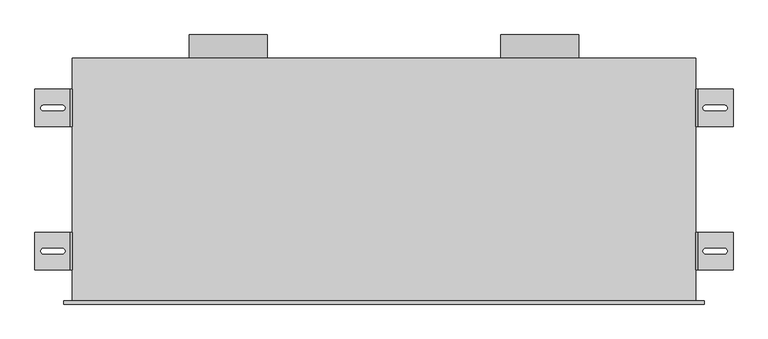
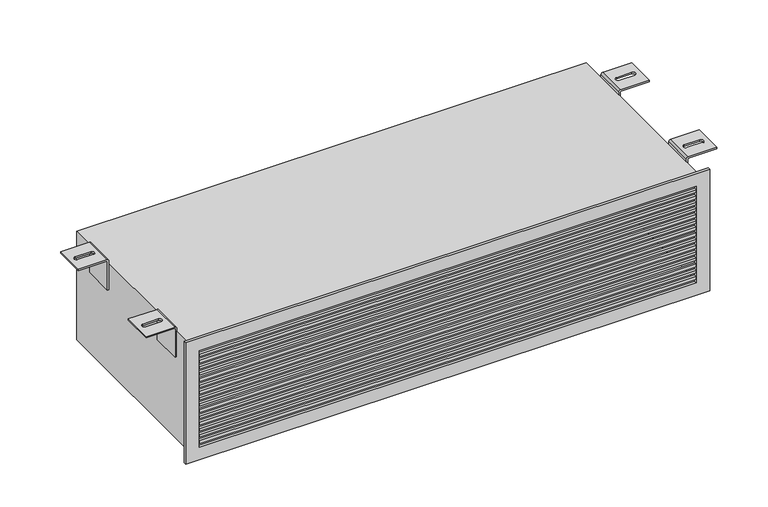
"""IFC4 building model written with IfcOpenShell, lengths in millimetres: air terminal geometry, EOL - Mural - 2 piquages : EOL-M2x125-1000x225-2."""

from ifc_helpers import new_model, si_unit, point, frame, frame_2d, origin, place, context, project, spatial, polyline, circle_curve, ellipse_curve, trimmed, segment, composite_curve, outline, extrude, source, transform, mapped, element, save
from ifc_brep_helpers import plane_surface, cylinder_surface, revolved_surface, extruded_surface, advanced_brep


def air_terminal_dd134d97(model_context):
    return source(origin(), model_context, "Body", "SolidModel", [
        advanced_brep(
        [(504.0013366, 110.0, 121.5), (560.0, 110.0, 121.5), (560.0, 110.0, 118.5), (504.0, 110.0, 118.5), (503.0, 110.0, 117.5), (503.0, 110.0, 58.5), (500.0, 110.0, 58.5), (500.0, 110.0, 117.4986634), (504.0013366, 50.0, 121.5), (500.0, 50.0, 117.4986634), (500.0, 50.0, 58.5), (503.0, 50.0, 58.5), (503.0, 50.0, 117.5), (504.0, 50.0, 118.5), (560.0, 50.0, 118.5), (560.0, 50.0, 121.5), (546.0287952, 75.4804328, 121.5), (516.0287952, 75.4804328, 121.5), (516.0287952, 84.4804328, 121.5), (546.0287952, 84.4804328, 121.5), (516.0287952, 75.4804328, 118.5), (546.0287952, 75.4804328, 118.5), (546.0287952, 84.4804328, 118.5), (516.0287952, 84.4804328, 118.5)],
        [
            (0, 1),
            (1, 2),
            (2, 3),
            (3, 4, circle_curve(frame((504.0, 110.0, 117.5), z_axis=(0.0, -1.0, 0.0), x_axis=(-1.0000000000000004, 0.0, 0.0)), 1.0)),
            (4, 5),
            (5, 6),
            (6, 7),
            (7, 0, circle_curve(frame((504.0013366, 110.0, 117.4986634), z_axis=(0.0, 1.0, 0.0), x_axis=(-1.0000000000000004, 0.0, 0.0)), 4.0013366)),
            (8, 9, circle_curve(frame((504.0013366, 50.0, 117.4986634), z_axis=(0.0, -1.0, 0.0), x_axis=(-1.0000000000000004, 0.0, 0.0)), 4.0013366)),
            (9, 10),
            (10, 11),
            (11, 12),
            (12, 13, circle_curve(frame((504.0, 50.0, 117.5), z_axis=(0.0, 1.0, 0.0), x_axis=(-1.0000000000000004, 0.0, 0.0)), 1.0)),
            (13, 14),
            (14, 15),
            (15, 8),
            (0, 8),
            (15, 1),
            (16, 17),
            (17, 18, circle_curve(frame((516.0287952, 79.9804328, 121.5), z_axis=(0.0, 0.0, -1.0), x_axis=(0.0, -1.0, 0.0)), 4.5)),
            (18, 19),
            (19, 16, circle_curve(frame((546.0287952, 79.9804328, 121.5), z_axis=(0.0, 0.0, -1.0), x_axis=(0.0, -1.0, 0.0)), 4.5)),
            (14, 2),
            (13, 3),
            (20, 21),
            (21, 22, ellipse_curve(frame((546.0287952, 79.9804328, 118.5), z_axis=(0.0, 0.0, 1.0), x_axis=(0.0, -1.0, 0.0)), 4.5, 4.5)),
            (22, 23),
            (23, 20, ellipse_curve(frame((516.0287952, 79.9804328, 118.5), z_axis=(0.0, 0.0, 1.0), x_axis=(0.0, -1.0, 0.0)), 4.5, 4.5)),
            (12, 4),
            (11, 5),
            (10, 6),
            (9, 7),
            (16, 21),
            (20, 17),
            (19, 22),
            (18, 23),
        ],
        [
            plane_surface(frame((560.0, 110.0, 121.5), z_axis=(0.0, 1.0, 0.0), x_axis=(1.0, 0.0, 0.0))),
            plane_surface(frame((560.0, 50.0, 121.5), z_axis=(0.0, -1.0, 0.0), x_axis=(-1.0, 0.0, 0.0))),
            plane_surface(frame((504.0013366, 110.0, 121.5), z_axis=(0.0, 0.0, 1.0), x_axis=(0.0, -1.0, 0.0))),
            plane_surface(frame((560.0, 110.0, 121.5), z_axis=(1.0, 0.0, 0.0), x_axis=(0.0, -1.0, 0.0))),
            plane_surface(frame((560.0, 110.0, 118.5), z_axis=(0.0, 0.0, -1.0), x_axis=(0.0, -1.0, 0.0))),
            revolved_surface(polyline([(503.0, 50.0, 117.5), (503.0, 110.00000000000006, 117.5)]), (504.0, 50.0, 117.5), (0.0, -1.0000000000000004, 0.0)),
            plane_surface(frame((503.0, 110.0, 117.5), z_axis=(1.0, 0.0, 0.0), x_axis=(0.0, -1.0, 0.0))),
            plane_surface(frame((503.0, 110.0, 58.5), z_axis=(0.0, 0.0, -1.0), x_axis=(0.0, -1.0, 0.0))),
            plane_surface(frame((500.0, 110.0, 58.5), z_axis=(-1.0, 0.0, 0.0), x_axis=(0.0, -1.0, 0.0))),
            cylinder_surface(frame((504.0013366, 50.0, 117.4986634), z_axis=(0.0, 1.0000000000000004, 0.0), x_axis=(-1.0000000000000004, 0.0, 0.0)), 4.0013366),
            plane_surface(frame((516.0287952, 75.4804328, 121.5), z_axis=(0.0, 1.0, 0.0), x_axis=(0.0, 0.0, -1.0))),
            extruded_surface(trimmed(ellipse_curve(frame((546.0287952, 79.9804328, 118.5), z_axis=(0.0, 0.0, 1.0), x_axis=(0.0, -1.0, 0.0)), 4.5, 4.5), [point((546.0287952, 75.4804328, 118.5))], [point((546.0287952, 84.4804328, 118.5))], True, "CARTESIAN"), (0.0, 0.0, -3.0), 3.0),
            plane_surface(frame((546.0287952, 84.4804328, 121.5), z_axis=(0.0, -1.0, 0.0), x_axis=(0.0, 0.0, -1.0))),
            extruded_surface(trimmed(ellipse_curve(frame((516.0287952, 79.9804328, 118.5), z_axis=(0.0, 0.0, 1.0), x_axis=(0.0, -1.0, 0.0)), 4.5, 4.5), [point((516.0287952, 84.4804328, 118.5))], [point((516.0287952, 75.4804328, 118.5))], True, "CARTESIAN"), (0.0, 0.0, -3.0), 3.0),
        ],
        [
            (0, [[1, 2, 3, 4, 5, 6, 7, 8]]),
            (1, [[9, 10, 11, 12, 13, 14, 15, 16]]),
            (2, [[-1, 17, -16, 18], [19, 20, 21, 22]]),
            (3, [[-2, -18, -15, 23]]),
            (4, [[-3, -23, -14, 24], [25, 26, 27, 28]]),
            (5, [[-4, -24, -13, 29]]),
            (6, [[-5, -29, -12, 30]]),
            (7, [[-6, -30, -11, 31]]),
            (8, [[-7, -31, -10, 32]]),
            (9, [[-8, -32, -9, -17]]),
            (10, [[33, -25, 34, -19]]),
            (11, [[-33, -22, 35, -26]]),
            (12, [[-35, -21, 36, -27]]),
            (13, [[-34, -28, -36, -20]]),
        ],
    ),
        advanced_brep(
        [(504.0013366, 340.0, 121.5), (560.0, 340.0, 121.5), (560.0, 340.0, 118.5), (504.0, 340.0, 118.5), (503.0, 340.0, 117.5), (503.0, 340.0, 58.5), (500.0, 340.0, 58.5), (500.0, 340.0, 117.4986634), (504.0013366, 280.0, 121.5), (500.0, 280.0, 117.4986634), (500.0, 280.0, 58.5), (503.0, 280.0, 58.5), (503.0, 280.0, 117.5), (504.0, 280.0, 118.5), (560.0, 280.0, 118.5), (560.0, 280.0, 121.5), (546.0287952, 305.4804328, 121.5), (516.0287952, 305.4804328, 121.5), (516.0287952, 314.4804328, 121.5), (546.0287952, 314.4804328, 121.5), (516.0287952, 305.4804328, 118.5), (546.0287952, 305.4804328, 118.5), (546.0287952, 314.4804328, 118.5), (516.0287952, 314.4804328, 118.5)],
        [
            (0, 1),
            (1, 2),
            (2, 3),
            (3, 4, circle_curve(frame((504.0, 340.0, 117.5), z_axis=(0.0, -1.0, 0.0), x_axis=(-1.0, 0.0, 0.0)), 1.0)),
            (4, 5),
            (5, 6),
            (6, 7),
            (7, 0, circle_curve(frame((504.0013366, 340.0, 117.4986634), z_axis=(0.0, 1.0, 0.0), x_axis=(-1.0, 0.0, 0.0)), 4.0013366)),
            (8, 9, circle_curve(frame((504.0013366, 280.0, 117.4986634), z_axis=(0.0, -1.0, 0.0), x_axis=(-1.0, 0.0, 0.0)), 4.0013366)),
            (9, 10),
            (10, 11),
            (11, 12),
            (12, 13, circle_curve(frame((504.0, 280.0, 117.5), z_axis=(0.0, 1.0, 0.0), x_axis=(-1.0, 0.0, 0.0)), 1.0)),
            (13, 14),
            (14, 15),
            (15, 8),
            (0, 8),
            (15, 1),
            (16, 17),
            (17, 18, circle_curve(frame((516.0287952, 309.9804328, 121.5), z_axis=(0.0, 0.0, -1.0), x_axis=(0.0, -1.0, 0.0)), 4.5)),
            (18, 19),
            (19, 16, circle_curve(frame((546.0287952, 309.9804328, 121.5), z_axis=(0.0, 0.0, -1.0), x_axis=(0.0, -1.0, 0.0)), 4.5)),
            (14, 2),
            (13, 3),
            (20, 21),
            (21, 22, ellipse_curve(frame((546.0287952, 309.9804328, 118.5), z_axis=(0.0, 0.0, 1.0), x_axis=(0.0, -1.0, 0.0)), 4.5, 4.5)),
            (22, 23),
            (23, 20, ellipse_curve(frame((516.0287952, 309.9804328, 118.5), z_axis=(0.0, 0.0, 1.0), x_axis=(0.0, -1.0, 0.0)), 4.5, 4.5)),
            (12, 4),
            (11, 5),
            (10, 6),
            (9, 7),
            (16, 21),
            (20, 17),
            (19, 22),
            (18, 23),
        ],
        [
            plane_surface(frame((560.0, 340.0, 121.5), z_axis=(0.0, 1.0, 0.0), x_axis=(1.0, 0.0, 0.0))),
            plane_surface(frame((560.0, 280.0, 121.5), z_axis=(0.0, -1.0, 0.0), x_axis=(-1.0, 0.0, 0.0))),
            plane_surface(frame((504.0013366, 340.0, 121.5), z_axis=(0.0, 0.0, 1.0), x_axis=(0.0, -1.0, 0.0))),
            plane_surface(frame((560.0, 340.0, 121.5), z_axis=(1.0, 0.0, 0.0), x_axis=(0.0, -1.0, 0.0))),
            plane_surface(frame((560.0, 340.0, 118.5), z_axis=(0.0, 0.0, -1.0), x_axis=(0.0, -1.0, 0.0))),
            revolved_surface(polyline([(503.0, 280.0, 117.5), (503.0, 340.0, 117.5)]), (504.0, 280.0, 117.5), (0.0, -1.0, 0.0)),
            plane_surface(frame((503.0, 340.0, 117.5), z_axis=(1.0, 0.0, 0.0), x_axis=(0.0, -1.0, 0.0))),
            plane_surface(frame((503.0, 340.0, 58.5), z_axis=(0.0, 0.0, -1.0), x_axis=(0.0, -1.0, 0.0))),
            plane_surface(frame((500.0, 340.0, 58.5), z_axis=(-1.0, 0.0, 0.0), x_axis=(0.0, -1.0, 0.0))),
            cylinder_surface(frame((504.0013366, 280.0, 117.4986634), z_axis=(0.0, 1.0, 0.0), x_axis=(-1.0, 0.0, 0.0)), 4.0013366),
            plane_surface(frame((516.0287952, 305.4804328, 121.5), z_axis=(0.0, 1.0, 0.0), x_axis=(0.0, 0.0, -1.0))),
            extruded_surface(trimmed(ellipse_curve(frame((546.0287952, 309.9804328, 118.5), z_axis=(0.0, 0.0, 1.0), x_axis=(0.0, -1.0, 0.0)), 4.5, 4.5), [point((546.0287952, 305.4804328, 118.5))], [point((546.0287952, 314.4804328, 118.5))], True, "CARTESIAN"), (0.0, 0.0, -3.0), 3.0),
            plane_surface(frame((546.0287952, 314.4804328, 121.5), z_axis=(0.0, -1.0, 0.0), x_axis=(0.0, 0.0, -1.0))),
            extruded_surface(trimmed(ellipse_curve(frame((516.0287952, 309.9804328, 118.5), z_axis=(0.0, 0.0, 1.0), x_axis=(0.0, -1.0, 0.0)), 4.5, 4.5), [point((516.0287952, 314.4804328, 118.5))], [point((516.0287952, 305.4804328, 118.5))], True, "CARTESIAN"), (0.0, 0.0, -3.0), 3.0),
        ],
        [
            (0, [[1, 2, 3, 4, 5, 6, 7, 8]]),
            (1, [[9, 10, 11, 12, 13, 14, 15, 16]]),
            (2, [[-1, 17, -16, 18], [19, 20, 21, 22]]),
            (3, [[-2, -18, -15, 23]]),
            (4, [[-3, -23, -14, 24], [25, 26, 27, 28]]),
            (5, [[-4, -24, -13, 29]]),
            (6, [[-5, -29, -12, 30]]),
            (7, [[-6, -30, -11, 31]]),
            (8, [[-7, -31, -10, 32]]),
            (9, [[-8, -32, -9, -17]]),
            (10, [[33, -25, 34, -19]]),
            (11, [[-33, -22, 35, -26]]),
            (12, [[-35, -21, 36, -27]]),
            (13, [[-34, -28, -36, -20]]),
        ],
    ),
        advanced_brep(
        [(-504.0013366, 50.0, 121.5), (-560.0, 50.0, 121.5), (-560.0, 50.0, 118.5), (-504.0, 50.0, 118.5), (-503.0, 50.0, 117.5), (-503.0, 50.0, 58.5), (-500.0, 50.0, 58.5), (-500.0, 50.0, 117.4986634), (-504.0013366, 110.0, 121.5), (-500.0, 110.0, 117.4986634), (-500.0, 110.0, 58.5), (-503.0, 110.0, 58.5), (-503.0, 110.0, 117.5), (-504.0, 110.0, 118.5), (-560.0, 110.0, 118.5), (-560.0, 110.0, 121.5), (-546.0287952, 84.5195672, 121.5), (-516.0287952, 84.5195672, 121.5), (-516.0287952, 75.5195672, 121.5), (-546.0287952, 75.5195672, 121.5), (-516.0287952, 84.5195672, 118.5), (-546.0287952, 84.5195672, 118.5), (-546.0287952, 75.5195672, 118.5), (-516.0287952, 75.5195672, 118.5)],
        [
            (0, 1),
            (1, 2),
            (2, 3),
            (3, 4, circle_curve(frame((-504.0, 50.0, 117.5), z_axis=(0.0, 1.0, 0.0), x_axis=(1.0, 0.0, 0.0)), 1.0)),
            (4, 5),
            (5, 6),
            (6, 7),
            (7, 0, circle_curve(frame((-504.0013366, 50.0, 117.4986634), z_axis=(0.0, -1.0, 0.0), x_axis=(1.0, 0.0, 0.0)), 4.0013366)),
            (8, 9, circle_curve(frame((-504.0013366, 110.0, 117.4986634), z_axis=(0.0, 1.0, 0.0), x_axis=(1.0, 0.0, 0.0)), 4.0013366)),
            (9, 10),
            (10, 11),
            (11, 12),
            (12, 13, circle_curve(frame((-504.0, 110.0, 117.5), z_axis=(0.0, -1.0, 0.0), x_axis=(1.0, 0.0, 0.0)), 1.0)),
            (13, 14),
            (14, 15),
            (15, 8),
            (0, 8),
            (15, 1),
            (16, 17),
            (17, 18, circle_curve(frame((-516.0287952, 80.0195672, 121.5), z_axis=(0.0, 0.0, -1.0), x_axis=(0.0, 1.0, 0.0)), 4.5)),
            (18, 19),
            (19, 16, circle_curve(frame((-546.0287952, 80.0195672, 121.5), z_axis=(0.0, 0.0, -1.0), x_axis=(0.0, 1.0, 0.0)), 4.5)),
            (14, 2),
            (13, 3),
            (20, 21),
            (21, 22, ellipse_curve(frame((-546.0287952, 80.0195672, 118.5), z_axis=(0.0, 0.0, 1.0), x_axis=(0.0, 1.0, 0.0)), 4.5, 4.5)),
            (22, 23),
            (23, 20, ellipse_curve(frame((-516.0287952, 80.0195672, 118.5), z_axis=(0.0, 0.0, 1.0), x_axis=(0.0, 1.0, 0.0)), 4.5, 4.5)),
            (12, 4),
            (11, 5),
            (10, 6),
            (9, 7),
            (16, 21),
            (20, 17),
            (19, 22),
            (18, 23),
        ],
        [
            plane_surface(frame((-560.0, 50.0, 121.5), z_axis=(0.0, -1.0, 0.0), x_axis=(-1.0, 0.0, 0.0))),
            plane_surface(frame((-560.0, 110.0, 121.5), z_axis=(0.0, 1.0, 0.0), x_axis=(1.0, 0.0, 0.0))),
            plane_surface(frame((-504.0013366, 50.0, 121.5), z_axis=(0.0, 0.0, 1.0), x_axis=(0.0, 1.0, 0.0))),
            plane_surface(frame((-560.0, 50.0, 121.5), z_axis=(-1.0, 0.0, 0.0), x_axis=(0.0, 1.0, 0.0))),
            plane_surface(frame((-560.0, 50.0, 118.5), z_axis=(0.0, 0.0, -1.0), x_axis=(0.0, 1.0, 0.0))),
            revolved_surface(polyline([(-503.0, 110.0, 117.5), (-503.0, 50.0, 117.5)]), (-504.0, 110.0, 117.5), (0.0, 1.0, 0.0)),
            plane_surface(frame((-503.0, 50.0, 117.5), z_axis=(-1.0, 0.0, 0.0), x_axis=(0.0, 1.0, 0.0))),
            plane_surface(frame((-503.0, 50.0, 58.5), z_axis=(0.0, 0.0, -1.0), x_axis=(0.0, 1.0, 0.0))),
            plane_surface(frame((-500.0, 50.0, 58.5), z_axis=(1.0, 0.0, 0.0), x_axis=(0.0, 1.0, 0.0))),
            cylinder_surface(frame((-504.0013366, 110.0, 117.4986634), z_axis=(0.0, -1.0, 0.0), x_axis=(1.0, 0.0, 0.0)), 4.0013366),
            plane_surface(frame((-516.0287952, 84.5195672, 121.5), z_axis=(0.0, -1.0, 0.0), x_axis=(0.0, 0.0, -1.0))),
            extruded_surface(trimmed(ellipse_curve(frame((-546.0287952, 80.0195672, 118.5), z_axis=(0.0, 0.0, 1.0), x_axis=(0.0, 1.0, 0.0)), 4.5, 4.5), [point((-546.0287952, 84.5195672, 118.5))], [point((-546.0287952, 75.5195672, 118.5))], True, "CARTESIAN"), (0.0, 0.0, -3.0), 3.0),
            plane_surface(frame((-546.0287952, 75.5195672, 121.5), z_axis=(0.0, 1.0, 0.0), x_axis=(0.0, 0.0, -1.0))),
            extruded_surface(trimmed(ellipse_curve(frame((-516.0287952, 80.0195672, 118.5), z_axis=(0.0, 0.0, 1.0), x_axis=(0.0, 1.0, 0.0)), 4.5, 4.5), [point((-516.0287952, 75.5195672, 118.5))], [point((-516.0287952, 84.5195672, 118.5))], True, "CARTESIAN"), (0.0, 0.0, -3.0), 3.0),
        ],
        [
            (0, [[1, 2, 3, 4, 5, 6, 7, 8]]),
            (1, [[9, 10, 11, 12, 13, 14, 15, 16]]),
            (2, [[-1, 17, -16, 18], [19, 20, 21, 22]]),
            (3, [[-2, -18, -15, 23]]),
            (4, [[-3, -23, -14, 24], [25, 26, 27, 28]]),
            (5, [[-4, -24, -13, 29]]),
            (6, [[-5, -29, -12, 30]]),
            (7, [[-6, -30, -11, 31]]),
            (8, [[-7, -31, -10, 32]]),
            (9, [[-8, -32, -9, -17]]),
            (10, [[33, -25, 34, -19]]),
            (11, [[-33, -22, 35, -26]]),
            (12, [[-35, -21, 36, -27]]),
            (13, [[-34, -28, -36, -20]]),
        ],
    ),
        advanced_brep(
        [(-504.0013366, 280.0, 121.5), (-560.0, 280.0, 121.5), (-560.0, 280.0, 118.5), (-504.0, 280.0, 118.5), (-503.0, 280.0, 117.5), (-503.0, 280.0, 58.5), (-500.0, 280.0, 58.5), (-500.0, 280.0, 117.4986634), (-504.0013366, 340.0, 121.5), (-500.0, 340.0, 117.4986634), (-500.0, 340.0, 58.5), (-503.0, 340.0, 58.5), (-503.0, 340.0, 117.5), (-504.0, 340.0, 118.5), (-560.0, 340.0, 118.5), (-560.0, 340.0, 121.5), (-546.0287952, 314.5195672, 121.5), (-516.0287952, 314.5195672, 121.5), (-516.0287952, 305.5195672, 121.5), (-546.0287952, 305.5195672, 121.5), (-516.0287952, 314.5195672, 118.5), (-546.0287952, 314.5195672, 118.5), (-546.0287952, 305.5195672, 118.5), (-516.0287952, 305.5195672, 118.5)],
        [
            (0, 1),
            (1, 2),
            (2, 3),
            (3, 4, circle_curve(frame((-504.0, 280.0, 117.5), z_axis=(0.0, 1.0, 0.0), x_axis=(1.0, 0.0, 0.0)), 1.0)),
            (4, 5),
            (5, 6),
            (6, 7),
            (7, 0, circle_curve(frame((-504.0013366, 280.0, 117.4986634), z_axis=(0.0, -1.0, 0.0), x_axis=(1.0, 0.0, 0.0)), 4.0013366)),
            (8, 9, circle_curve(frame((-504.0013366, 340.0, 117.4986634), z_axis=(0.0, 1.0, 0.0), x_axis=(1.0, 0.0, 0.0)), 4.0013366)),
            (9, 10),
            (10, 11),
            (11, 12),
            (12, 13, circle_curve(frame((-504.0, 340.0, 117.5), z_axis=(0.0, -1.0, 0.0), x_axis=(1.0, 0.0, 0.0)), 1.0)),
            (13, 14),
            (14, 15),
            (15, 8),
            (0, 8),
            (15, 1),
            (16, 17),
            (17, 18, circle_curve(frame((-516.0287952, 310.0195672, 121.5), z_axis=(0.0, 0.0, -1.0), x_axis=(0.0, 1.0, 0.0)), 4.5)),
            (18, 19),
            (19, 16, circle_curve(frame((-546.0287952, 310.0195672, 121.5), z_axis=(0.0, 0.0, -1.0), x_axis=(0.0, 1.0, 0.0)), 4.5)),
            (14, 2),
            (13, 3),
            (20, 21),
            (21, 22, ellipse_curve(frame((-546.0287952, 310.0195672, 118.5), z_axis=(0.0, 0.0, 1.0), x_axis=(0.0, 1.0, 0.0)), 4.5, 4.5)),
            (22, 23),
            (23, 20, ellipse_curve(frame((-516.0287952, 310.0195672, 118.5), z_axis=(0.0, 0.0, 1.0), x_axis=(0.0, 1.0, 0.0)), 4.5, 4.5)),
            (12, 4),
            (11, 5),
            (10, 6),
            (9, 7),
            (16, 21),
            (20, 17),
            (19, 22),
            (18, 23),
        ],
        [
            plane_surface(frame((-560.0, 280.0, 121.5), z_axis=(0.0, -1.0, 0.0), x_axis=(-1.0, 0.0, 0.0))),
            plane_surface(frame((-560.0, 340.0, 121.5), z_axis=(0.0, 1.0, 0.0), x_axis=(1.0, 0.0, 0.0))),
            plane_surface(frame((-504.0013366, 280.0, 121.5), z_axis=(0.0, 0.0, 1.0), x_axis=(0.0, 1.0, 0.0))),
            plane_surface(frame((-560.0, 280.0, 121.5), z_axis=(-1.0, 0.0, 0.0), x_axis=(0.0, 1.0, 0.0))),
            plane_surface(frame((-560.0, 280.0, 118.5), z_axis=(0.0, 0.0, -1.0), x_axis=(0.0, 1.0, 0.0))),
            revolved_surface(polyline([(-503.0, 340.0, 117.5), (-503.0, 280.0, 117.5)]), (-504.0, 340.0, 117.5), (0.0, 1.0, 0.0)),
            plane_surface(frame((-503.0, 280.0, 117.5), z_axis=(-1.0, 0.0, 0.0), x_axis=(0.0, 1.0, 0.0))),
            plane_surface(frame((-503.0, 280.0, 58.5), z_axis=(0.0, 0.0, -1.0), x_axis=(0.0, 1.0, 0.0))),
            plane_surface(frame((-500.0, 280.0, 58.5), z_axis=(1.0, 0.0, 0.0), x_axis=(0.0, 1.0, 0.0))),
            cylinder_surface(frame((-504.0013366, 340.0, 117.4986634), z_axis=(0.0, -1.0, 0.0), x_axis=(1.0, 0.0, 0.0)), 4.0013366),
            plane_surface(frame((-516.0287952, 314.5195672, 121.5), z_axis=(0.0, -1.0, 0.0), x_axis=(0.0, 0.0, -1.0))),
            extruded_surface(trimmed(ellipse_curve(frame((-546.0287952, 310.0195672, 118.5), z_axis=(0.0, 0.0, 1.0), x_axis=(0.0, 1.0, 0.0)), 4.5, 4.5), [point((-546.0287952, 314.5195672, 118.5))], [point((-546.0287952, 305.5195672, 118.5))], True, "CARTESIAN"), (0.0, 0.0, -3.0), 3.0),
            plane_surface(frame((-546.0287952, 305.5195672, 121.5), z_axis=(0.0, 1.0, 0.0), x_axis=(0.0, 0.0, -1.0))),
            extruded_surface(trimmed(ellipse_curve(frame((-516.0287952, 310.0195672, 118.5), z_axis=(0.0, 0.0, 1.0), x_axis=(0.0, 1.0, 0.0)), 4.5, 4.5), [point((-516.0287952, 305.5195672, 118.5))], [point((-516.0287952, 314.5195672, 118.5))], True, "CARTESIAN"), (0.0, 0.0, -3.0), 3.0),
        ],
        [
            (0, [[1, 2, 3, 4, 5, 6, 7, 8]]),
            (1, [[9, 10, 11, 12, 13, 14, 15, 16]]),
            (2, [[-1, 17, -16, 18], [19, 20, 21, 22]]),
            (3, [[-2, -18, -15, 23]]),
            (4, [[-3, -23, -14, 24], [25, 26, 27, 28]]),
            (5, [[-4, -24, -13, 29]]),
            (6, [[-5, -29, -12, 30]]),
            (7, [[-6, -30, -11, 31]]),
            (8, [[-7, -31, -10, 32]]),
            (9, [[-8, -32, -9, -17]]),
            (10, [[33, -25, 34, -19]]),
            (11, [[-33, -22, 35, -26]]),
            (12, [[-35, -21, 36, -27]]),
            (13, [[-34, -28, -36, -20]]),
        ],
    ),
        extrude(outline(composite_curve([segment(trimmed(circle_curve(frame_2d((0.0, 250.0)), 62.5), [point((0.0, 187.5))], [point((0.0, 312.5))], False, "CARTESIAN"), True, "CONTINUOUS"), segment(trimmed(circle_curve(frame_2d((0.0, 250.0)), 62.5), [point((0.0, 312.5))], [point((0.0, 187.5))], False, "CARTESIAN"), True, "CONTINUOUS")], self_intersect=False), holes=[composite_curve([segment(trimmed(circle_curve(frame_2d((0.0, 250.0)), 61.5), [point((0.0, 311.5))], [point((0.0, 188.5))], True, "CARTESIAN"), True, "CONTINUOUS"), segment(trimmed(circle_curve(frame_2d((0.0, 250.0)), 61.5), [point((0.0, 188.5))], [point((0.0, 311.5))], True, "CARTESIAN"), True, "CONTINUOUS")], self_intersect=False)]), frame((0.0, 390.0, 0.0), z_axis=(0.0, 1.0, 0.0), x_axis=(0.0, 0.0, 1.0)), (0.0, 0.0, 1.0), 37.5),
        extrude(outline(composite_curve([segment(trimmed(circle_curve(frame_2d((0.0, -250.0)), 62.5), [point((0.0, -312.5))], [point((0.0, -187.5))], False, "CARTESIAN"), True, "CONTINUOUS"), segment(trimmed(circle_curve(frame_2d((0.0, -250.0)), 62.5), [point((0.0, -187.5))], [point((0.0, -312.5))], False, "CARTESIAN"), True, "CONTINUOUS")], self_intersect=False), holes=[composite_curve([segment(trimmed(circle_curve(frame_2d((0.0, -250.0)), 61.5), [point((0.0, -188.5))], [point((0.0, -311.5))], True, "CARTESIAN"), True, "CONTINUOUS"), segment(trimmed(circle_curve(frame_2d((0.0, -250.0)), 61.5), [point((0.0, -311.5))], [point((0.0, -188.5))], True, "CARTESIAN"), True, "CONTINUOUS")], self_intersect=False)]), frame((0.0, 390.0, 0.0), z_axis=(0.0, 1.0, 0.0), x_axis=(0.0, 0.0, 1.0)), (0.0, 0.0, 1.0), 37.5),
        extrude(outline(polyline([(487.5, 0.0), (487.5, -5.0), (-487.5, -5.0), (-487.5, 0.0), (487.5, 0.0)])), frame((0.0, 0.0, 87.15), z_axis=(0.0, 0.0, 1.0), x_axis=(1.0, 0.0, 0.0)), (0.0, 0.0, 1.0), 5.6),
        extrude(outline(polyline([(487.5, 0.0), (487.5, -5.0), (-487.5, -5.0), (-487.5, 0.0), (487.5, 0.0)])), frame((0.0, 0.0, 74.3), z_axis=(0.0, 0.0, 1.0), x_axis=(1.0, 0.0, 0.0)), (0.0, 0.0, 1.0), 5.6),
        extrude(outline(polyline([(487.5, 0.0), (487.5, -5.0), (-487.5, -5.0), (-487.5, 0.0), (487.5, 0.0)])), frame((0.0, 0.0, 61.45), z_axis=(0.0, 0.0, 1.0), x_axis=(1.0, 0.0, 0.0)), (0.0, 0.0, 1.0), 5.6),
        extrude(outline(polyline([(487.5, 0.0), (487.5, -5.0), (-487.5, -5.0), (-487.5, 0.0), (487.5, 0.0)])), frame((0.0, 0.0, 48.6), z_axis=(0.0, 0.0, 1.0), x_axis=(1.0, 0.0, 0.0)), (0.0, 0.0, 1.0), 5.6),
        extrude(outline(polyline([(487.5, 0.0), (487.5, -5.0), (-487.5, -5.0), (-487.5, 0.0), (487.5, 0.0)])), frame((0.0, 0.0, 35.75), z_axis=(0.0, 0.0, 1.0), x_axis=(1.0, 0.0, 0.0)), (0.0, 0.0, 1.0), 5.6),
        extrude(outline(polyline([(487.5, 0.0), (487.5, -5.0), (-487.5, -5.0), (-487.5, 0.0), (487.5, 0.0)])), frame((0.0, 0.0, 22.9), z_axis=(0.0, 0.0, 1.0), x_axis=(1.0, 0.0, 0.0)), (0.0, 0.0, 1.0), 5.6),
        extrude(outline(polyline([(487.5, 0.0), (487.5, -5.0), (-487.5, -5.0), (-487.5, 0.0), (487.5, 0.0)])), frame((0.0, 0.0, 10.05), z_axis=(0.0, 0.0, 1.0), x_axis=(1.0, 0.0, 0.0)), (0.0, 0.0, 1.0), 5.6),
        extrude(outline(polyline([(487.5, 0.0), (487.5, -5.0), (-487.5, -5.0), (-487.5, 0.0), (487.5, 0.0)])), frame((0.0, 0.0, -2.8), z_axis=(0.0, 0.0, 1.0), x_axis=(1.0, 0.0, 0.0)), (0.0, 0.0, 1.0), 5.6),
        extrude(outline(polyline([(487.5, 0.0), (487.5, -5.0), (-487.5, -5.0), (-487.5, 0.0), (487.5, 0.0)])), frame((0.0, 0.0, -15.65), z_axis=(0.0, 0.0, 1.0), x_axis=(1.0, 0.0, 0.0)), (0.0, 0.0, 1.0), 5.6),
        extrude(outline(polyline([(487.5, 0.0), (487.5, -5.0), (-487.5, -5.0), (-487.5, 0.0), (487.5, 0.0)])), frame((0.0, 0.0, -28.5), z_axis=(0.0, 0.0, 1.0), x_axis=(1.0, 0.0, 0.0)), (0.0, 0.0, 1.0), 5.6),
        extrude(outline(polyline([(487.5, 0.0), (487.5, -5.0), (-487.5, -5.0), (-487.5, 0.0), (487.5, 0.0)])), frame((0.0, 0.0, -41.35), z_axis=(0.0, 0.0, 1.0), x_axis=(1.0, 0.0, 0.0)), (0.0, 0.0, 1.0), 5.6),
        extrude(outline(polyline([(487.5, 0.0), (487.5, -5.0), (-487.5, -5.0), (-487.5, 0.0), (487.5, 0.0)])), frame((0.0, 0.0, -54.2), z_axis=(0.0, 0.0, 1.0), x_axis=(1.0, 0.0, 0.0)), (0.0, 0.0, 1.0), 5.6),
        extrude(outline(polyline([(487.5, 0.0), (487.5, -5.0), (-487.5, -5.0), (-487.5, 0.0), (487.5, 0.0)])), frame((0.0, 0.0, -67.05), z_axis=(0.0, 0.0, 1.0), x_axis=(1.0, 0.0, 0.0)), (0.0, 0.0, 1.0), 5.6),
        extrude(outline(polyline([(487.5, 0.0), (487.5, -5.0), (-487.5, -5.0), (-487.5, 0.0), (487.5, 0.0)])), frame((0.0, 0.0, -79.9), z_axis=(0.0, 0.0, 1.0), x_axis=(1.0, 0.0, 0.0)), (0.0, 0.0, 1.0), 5.6),
        extrude(outline(polyline([(487.5, 0.0), (487.5, -5.0), (-487.5, -5.0), (-487.5, 0.0), (487.5, 0.0)])), frame((0.0, 0.0, -92.75), z_axis=(0.0, 0.0, 1.0), x_axis=(1.0, 0.0, 0.0)), (0.0, 0.0, 1.0), 5.6),
        extrude(outline(polyline([(126.0, 514.0), (126.0, -514.0), (-126.0, -514.0), (-126.0, 514.0), (126.0, 514.0)]), holes=[polyline([(100.0, 487.5), (-100.0, 487.5), (-100.0, -487.5), (100.0, -487.5), (100.0, 487.5)])]), frame((0.0, -5.0, 0.0), z_axis=(0.0, 1.0, 0.0), x_axis=(0.0, 0.0, 1.0)), (0.0, 0.0, 1.0), 5.0),
        advanced_brep(
        [(500.0, 390.0, 112.5), (-500.0, 390.0, 112.5), (-500.0, 0.0, 112.5), (500.0, 0.0, 112.5), (500.0, 390.0, -112.5), (500.0, 0.0, -112.5), (-500.0, 0.0, -112.5), (-500.0, 390.0, -112.5), (188.5, 390.0, 0.0), (311.5, 390.0, 0.0), (-311.5, 390.0, 0.0), (-188.5, 390.0, 0.0), (-495.0, 0.0, 107.5), (495.0, 0.0, 107.5), (495.0, 0.0, -107.5), (-495.0, 0.0, -107.5), (495.0, 385.0, 107.5), (-495.0, 385.0, 107.5), (495.0, 385.0, -107.5), (-495.0, 385.0, -107.5), (311.5, 385.0, 0.0), (188.5, 385.0, 0.0), (-188.5, 385.0, 0.0), (-311.5, 385.0, 0.0)],
        [
            (0, 1),
            (1, 2),
            (2, 3),
            (3, 0),
            (4, 5),
            (5, 6),
            (6, 7),
            (7, 4),
            (0, 4),
            (7, 1),
            (8, 9, circle_curve(frame((250.0, 390.0, 0.0), z_axis=(0.0, -1.0, 0.0), x_axis=(1.0, 0.0, 0.0)), 61.5)),
            (9, 8, circle_curve(frame((250.0, 390.0, 0.0), z_axis=(0.0, -1.0, 0.0), x_axis=(1.0, 0.0, 0.0)), 61.5)),
            (10, 11, circle_curve(frame((-250.0, 390.0, 0.0), z_axis=(0.0, -1.0, 0.0), x_axis=(1.0, 0.0, 0.0)), 61.5)),
            (11, 10, circle_curve(frame((-250.0, 390.0, 0.0), z_axis=(0.0, -1.0, 0.0), x_axis=(1.0, 0.0, 0.0)), 61.5)),
            (6, 2),
            (5, 3),
            (12, 13),
            (13, 14),
            (14, 15),
            (15, 12),
            (16, 13),
            (12, 17),
            (17, 16),
            (18, 19),
            (19, 15),
            (14, 18),
            (17, 19),
            (18, 16),
            (20, 21, circle_curve(frame((250.0, 385.0, 0.0), z_axis=(0.0, 1.0, 0.0), x_axis=(1.0, 0.0, 0.0)), 61.5)),
            (21, 20, circle_curve(frame((250.0, 385.0, 0.0), z_axis=(0.0, 1.0, 0.0), x_axis=(1.0, 0.0, 0.0)), 61.5)),
            (22, 23, circle_curve(frame((-250.0, 385.0, 0.0), z_axis=(0.0, 1.0, 0.0), x_axis=(1.0, 0.0, 0.0)), 61.5)),
            (23, 22, circle_curve(frame((-250.0, 385.0, 0.0), z_axis=(0.0, 1.0, 0.0), x_axis=(1.0, 0.0, 0.0)), 61.5)),
            (8, 21),
            (20, 9),
            (10, 23),
            (22, 11),
        ],
        [
            plane_surface(frame((-500.0, 390.0, 112.5), z_axis=(0.0, 0.0, 1.0), x_axis=(-1.0, 0.0, 0.0))),
            plane_surface(frame((-500.0, 390.0, -112.5), z_axis=(0.0, 0.0, -1.0), x_axis=(1.0, 0.0, 0.0))),
            plane_surface(frame((500.0, 390.0, 112.5), z_axis=(0.0, 1.0, 0.0), x_axis=(0.0, 0.0, -1.0))),
            plane_surface(frame((-500.0, 390.0, 112.5), z_axis=(-1.0, 0.0, 0.0), x_axis=(0.0, 0.0, -1.0))),
            plane_surface(frame((-500.0, 0.0, 112.5), z_axis=(0.0, -1.0, 0.0), x_axis=(0.0, 0.0, -1.0))),
            plane_surface(frame((500.0, 0.0, 112.5), z_axis=(1.0, 0.0, 0.0), x_axis=(0.0, 0.0, -1.0))),
            plane_surface(frame((-495.0, 385.0, 107.5), z_axis=(0.0, 0.0, -1.0), x_axis=(-1.0, 0.0, 0.0))),
            plane_surface(frame((-495.0, 385.0, -107.5), z_axis=(0.0, 0.0, 1.0), x_axis=(1.0, 0.0, 0.0))),
            plane_surface(frame((495.0, 385.0, 107.5), z_axis=(0.0, -1.0, 0.0), x_axis=(0.0, 0.0, -1.0))),
            plane_surface(frame((-495.0, 385.0, 107.5), z_axis=(1.0, 0.0, 0.0), x_axis=(0.0, 0.0, -1.0))),
            plane_surface(frame((495.0, 0.0, 107.5), z_axis=(-1.0, 0.0, 0.0), x_axis=(0.0, 0.0, -1.0))),
            revolved_surface(polyline([(311.5, 385.0, 0.0), (311.5, 390.0, 0.0)]), (250.0, 427.5, 0.0), (0.0, -1.0, 0.0)),
            revolved_surface(polyline([(-188.5, 385.0, 0.0), (-188.5, 390.0, 0.0)]), (-250.0, 0.0, 0.0), (0.0, -1.0, 0.0)),
        ],
        [
            (0, [[1, 2, 3, 4]]),
            (1, [[5, 6, 7, 8]]),
            (2, [[-1, 9, -8, 10], [11, 12], [13, 14]]),
            (3, [[-2, -10, -7, 15]]),
            (4, [[-3, -15, -6, 16], [17, 18, 19, 20]]),
            (5, [[-4, -16, -5, -9]]),
            (6, [[21, -17, 22, 23]]),
            (7, [[24, 25, -19, 26]]),
            (8, [[-23, 27, -24, 28], [29, 30], [31, 32]]),
            (9, [[-22, -20, -25, -27]]),
            (10, [[-21, -28, -26, -18]]),
            (11, [[33, -29, 34, -11]]),
            (11, [[-33, -12, -34, -30]]),
            (12, [[35, -31, 36, -13]]),
            (12, [[-35, -14, -36, -32]]),
        ],
    ),
    ])


if __name__ == "__main__":
    model = new_model("IFC4")
    model_context = context("Model", 3, world=origin())
    ifc_project = project(units=[si_unit("LENGTHUNIT", "METRE", prefix="MILLI")], contexts=[model_context])
    site = spatial("IfcSite", under=ifc_project)
    building = spatial("IfcBuilding", under=site)
    placement = place(None, origin())
    air_terminal_shape = air_terminal_dd134d97(model_context)
    element("IfcAirTerminal", 1, ObjectType="EOL - Mural - 2 piquages : EOL-M2x125-1000x225-2", at=placement, inside=building, context=model_context, shape_type="MappedRepresentation", body=[
        mapped(air_terminal_shape, transform((0.0, 0.0, 0.0), x_axis=(1.0, 0.0, 0.0), y_axis=(0.0, 1.0, 0.0), z_axis=(0.0, 0.0, 1.0))),
    ])
    save(model, "model.ifc")
